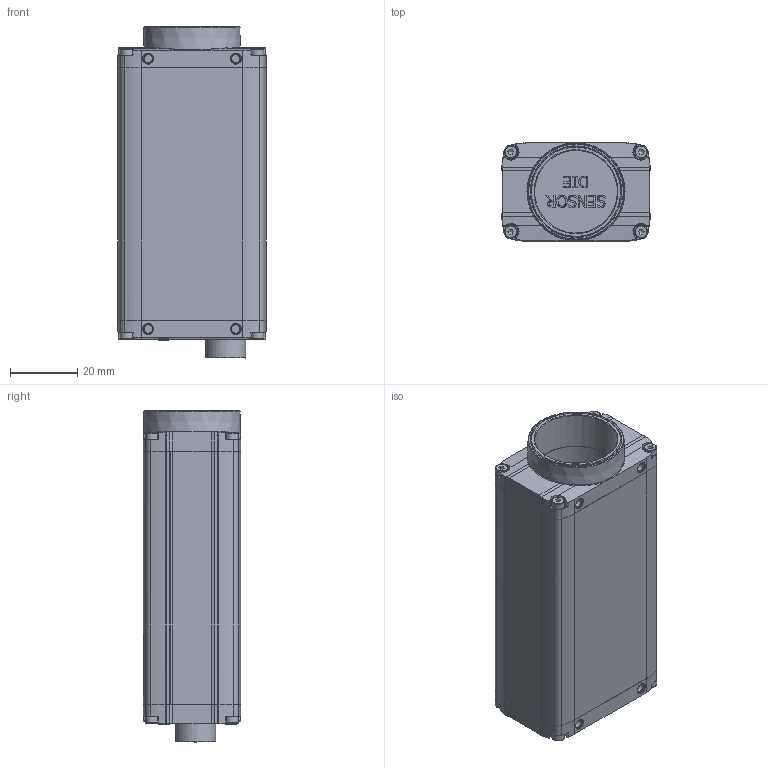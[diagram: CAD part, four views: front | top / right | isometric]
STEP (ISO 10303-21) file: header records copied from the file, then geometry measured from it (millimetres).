
FILE_DESCRIPTION((''),'2;1');
FILE_NAME('C:\cad\PSP2011Client\Work\135368670031IP01330701.stp','2012-11-23T17:08:47',(''),(''),'Autodesk Inventor 2011','Autodesk Inventor 2011','');
FILE_SCHEMA(('AUTOMOTIVE_DESIGN { 1 0 10303 214 1 1 1 1 }'));
Length unit declared in the file: millimetre
Products named in the file (1): 135368670031IP01330701
Bounding box: 44 x 29 x 98.5 mm (x, y, z)
Volume: 101867.2 mm3; surface area: 19280.6 mm2
Topology: 5 solids, 14 shells, 1280 faces, 3739 edges, 2543 vertices
Faces by surface type: plane 810, bspline 218, cylinder 139, cone 62, torus 39, sphere 12
Full cylindrical faces by diameter (mm): 0.6 x12, 1.57 x4, 2 x8, 2.3 x8, 2.46 x8, 3.2 x1, 3.3 x8, 3.8 x8, 9.7 x1, 11.9 x1, 14 x1, 24.536 x1, 25 x1, 26.89 x2
Entity records: 46956 total; most frequent: CARTESIAN_POINT 14138, ORIENTED_EDGE 7126, DIRECTION 5323, EDGE_CURVE 3563, VERTEX_POINT 2496, VECTOR 2303, LINE 2303, EDGE_LOOP 1573
